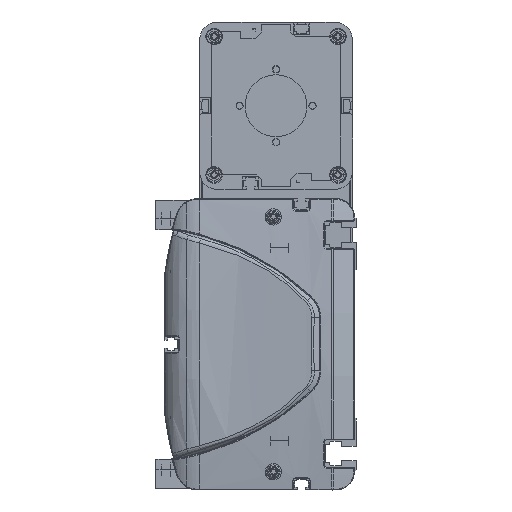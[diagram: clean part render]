
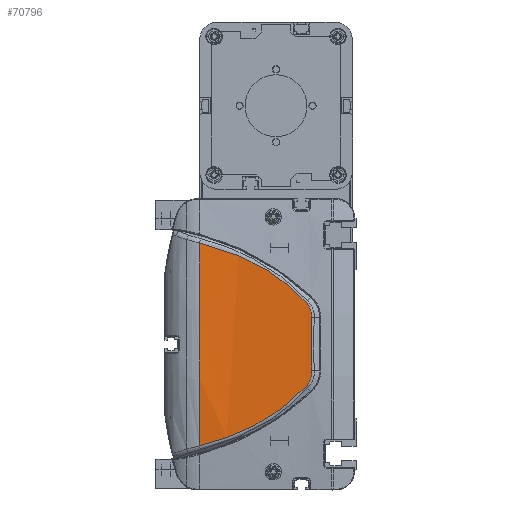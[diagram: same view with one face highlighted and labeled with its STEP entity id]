
A CAD part, left-side view. The second image highlights one B-rep face of the part: STEP entity #70796.
In plain terms, the highlighted cylindrical face has radius 600 mm (diameter 1200 mm), a partial arc.
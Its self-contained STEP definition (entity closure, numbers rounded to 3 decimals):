
#65826=CARTESIAN_POINT('',(-12.406,86.,
55.736));
#65827=CARTESIAN_POINT('',(-12.529,80.495,
54.41));
#65828=CARTESIAN_POINT('',(-12.828,69.636,
51.114));
#65829=CARTESIAN_POINT('',(-13.389,54.079,
44.179));
#65830=CARTESIAN_POINT('',(-14.01,39.709,
34.979));
#65831=CARTESIAN_POINT('',(-14.395,31.353,
27.243));
#65832=CARTESIAN_POINT('',(-14.555,27.451,
23.113));
#65834=CARTESIAN_POINT('',(-14.555,27.451,
23.113));
#65835=CARTESIAN_POINT('',(-14.641,25.336,
20.875));
#65836=CARTESIAN_POINT('',(-14.745,24.202,
17.745));
#65837=CARTESIAN_POINT('',(-14.821,24.351,
14.67));
#65839=CARTESIAN_POINT('',(-14.821,24.351,
14.67));
#65840=CARTESIAN_POINT('',(-14.9,24.51,
11.413));
#65841=CARTESIAN_POINT('',(-15.007,24.721,
4.895));
#65842=CARTESIAN_POINT('',(-15.007,24.721,
-4.895));
#65843=CARTESIAN_POINT('',(-14.9,24.51,
-11.413));
#65844=CARTESIAN_POINT('',(-14.821,24.351,
-14.67));
#65846=CARTESIAN_POINT('',(-14.821,24.351,
-14.67));
#65847=CARTESIAN_POINT('',(-14.745,24.202,
-17.745));
#65848=CARTESIAN_POINT('',(-14.641,25.337,
-20.876));
#65849=CARTESIAN_POINT('',(-14.555,27.451,
-23.113));
#65851=CARTESIAN_POINT('',(-14.555,27.451,
-23.113));
#65852=CARTESIAN_POINT('',(-14.395,31.353,
-27.243));
#65853=CARTESIAN_POINT('',(-14.01,39.709,
-34.979));
#65854=CARTESIAN_POINT('',(-13.389,54.079,
-44.179));
#65855=CARTESIAN_POINT('',(-12.828,69.636,
-51.114));
#65856=CARTESIAN_POINT('',(-12.529,80.495,
-54.41));
#65857=CARTESIAN_POINT('',(-12.406,86.,
-55.736));
#65859=CARTESIAN_POINT('',(585.,86.,0.));
#65860=DIRECTION('',(0.,1.,0.));
#65861=DIRECTION('',(-0.996,0.,-0.093));
#65862=AXIS2_PLACEMENT_3D('',#65859,#65860,#65861);
#65875=CARTESIAN_POINT('',(-12.406,86.,
55.736));
#66382=VERTEX_POINT('',#65875);
#66383=CARTESIAN_POINT('',(-12.406,86.,
-55.736));
#66384=VERTEX_POINT('',#66383);
#66436=VERTEX_POINT('',#65832);
#66437=VERTEX_POINT('',#65837);
#66438=VERTEX_POINT('',#65844);
#66439=VERTEX_POINT('',#65849);
#70778=CARTESIAN_POINT('',(585.,87.45,0.));
#70779=DIRECTION('',(0.,-1.,0.));
#70780=DIRECTION('',(0.,0.,-1.));
#70781=AXIS2_PLACEMENT_3D('',#70778,#70779,#70780);
#70782=CYLINDRICAL_SURFACE('',#70781,600.);
#70784=ORIENTED_EDGE('',*,*,#70783,.T.);
#70786=ORIENTED_EDGE('',*,*,#70785,.T.);
#70787=ORIENTED_EDGE('',*,*,#70768,.T.);
#70789=ORIENTED_EDGE('',*,*,#70788,.T.);
#70791=ORIENTED_EDGE('',*,*,#70790,.T.);
#70793=ORIENTED_EDGE('',*,*,#70792,.T.);
#70794=EDGE_LOOP('',(#70784,#70786,#70787,#70789,#70791,#70793));
#70795=FACE_OUTER_BOUND('',#70794,.F.);
#70796=ADVANCED_FACE('',(#70795),#70782,.T.);
#65833=B_SPLINE_CURVE_WITH_KNOTS('',3,(#65826,#65827,#65828,#65829,#65830,
#65831,#65832),.UNSPECIFIED.,.F.,.F.,(4,1,1,1,4),(0.,0.25,0.5,0.75,
1.),.UNSPECIFIED.);
#65838=B_SPLINE_CURVE_WITH_KNOTS('',3,(#65834,#65835,#65836,#65837),
.UNSPECIFIED.,.F.,.F.,(4,4),(0.,1.),.UNSPECIFIED.);
#65845=B_SPLINE_CURVE_WITH_KNOTS('',3,(#65839,#65840,#65841,#65842,#65843,
#65844),.UNSPECIFIED.,.F.,.F.,(4,1,1,4),(0.,0.333,
0.667,1.),.UNSPECIFIED.);
#65850=B_SPLINE_CURVE_WITH_KNOTS('',3,(#65846,#65847,#65848,#65849),
.UNSPECIFIED.,.F.,.F.,(4,4),(0.,1.),.UNSPECIFIED.);
#65858=B_SPLINE_CURVE_WITH_KNOTS('',3,(#65851,#65852,#65853,#65854,#65855,
#65856,#65857),.UNSPECIFIED.,.F.,.F.,(4,1,1,1,4),(0.,0.25,0.5,0.75,
1.),.UNSPECIFIED.);
#65863=CIRCLE('',#65862,600.);
#70768=EDGE_CURVE('',#66437,#66438,#65845,.T.);
#70783=EDGE_CURVE('',#66382,#66436,#65833,.T.);
#70785=EDGE_CURVE('',#66436,#66437,#65838,.T.);
#70788=EDGE_CURVE('',#66438,#66439,#65850,.T.);
#70790=EDGE_CURVE('',#66439,#66384,#65858,.T.);
#70792=EDGE_CURVE('',#66384,#66382,#65863,.T.);
